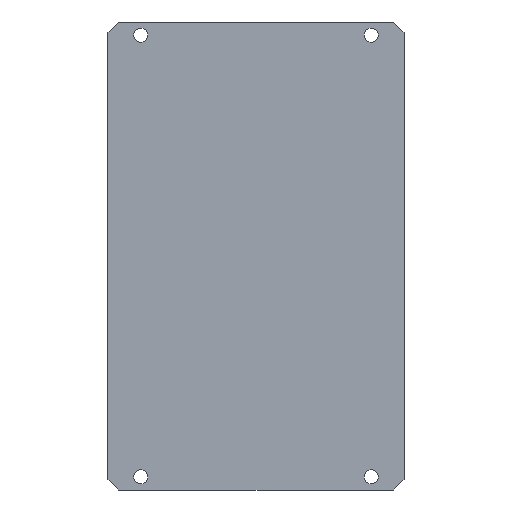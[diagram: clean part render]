
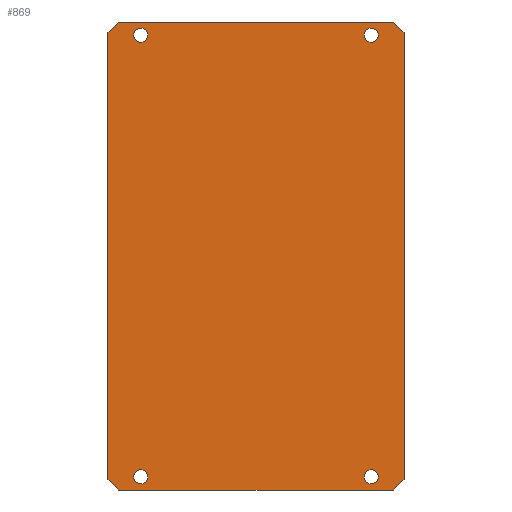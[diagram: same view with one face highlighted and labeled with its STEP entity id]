
A CAD part, front view. The second image highlights one B-rep face of the part: STEP entity #869.
In plain terms, the highlighted planar face has unit normal (0, -1, 0).
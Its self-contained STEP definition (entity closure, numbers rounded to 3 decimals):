
#31=LINE('',#1455,#83);
#33=LINE('',#1459,#85);
#40=LINE('',#1473,#92);
#41=LINE('',#1475,#93);
#42=LINE('',#1477,#94);
#43=LINE('',#1479,#95);
#44=LINE('',#1481,#96);
#45=LINE('',#1482,#97);
#83=VECTOR('',#1216,10.);
#85=VECTOR('',#1220,10.);
#92=VECTOR('',#1229,10.);
#93=VECTOR('',#1230,10.);
#94=VECTOR('',#1231,10.);
#95=VECTOR('',#1232,10.);
#96=VECTOR('',#1233,10.);
#97=VECTOR('',#1234,10.);
#182=PLANE('',#996);
#208=FACE_BOUND('',#358,.T.);
#209=FACE_BOUND('',#359,.T.);
#210=FACE_BOUND('',#360,.T.);
#211=FACE_BOUND('',#361,.T.);
#274=FACE_OUTER_BOUND('',#357,.T.);
#357=EDGE_LOOP('',(#710,#711,#712,#713,#714,#715,#716,#717));
#358=EDGE_LOOP('',(#718));
#359=EDGE_LOOP('',(#719));
#360=EDGE_LOOP('',(#720));
#361=EDGE_LOOP('',(#721));
#422=CIRCLE('',#997,1.6);
#423=CIRCLE('',#998,1.6);
#424=CIRCLE('',#999,1.6);
#425=CIRCLE('',#1000,1.6);
#476=VERTEX_POINT('',#1452);
#477=VERTEX_POINT('',#1454);
#478=VERTEX_POINT('',#1458);
#484=VERTEX_POINT('',#1472);
#485=VERTEX_POINT('',#1474);
#486=VERTEX_POINT('',#1476);
#487=VERTEX_POINT('',#1478);
#488=VERTEX_POINT('',#1480);
#489=VERTEX_POINT('',#1483);
#490=VERTEX_POINT('',#1485);
#491=VERTEX_POINT('',#1487);
#492=VERTEX_POINT('',#1489);
#560=EDGE_CURVE('',#476,#477,#31,.T.);
#562=EDGE_CURVE('',#478,#477,#33,.T.);
#569=EDGE_CURVE('',#476,#484,#40,.T.);
#570=EDGE_CURVE('',#485,#484,#41,.T.);
#571=EDGE_CURVE('',#485,#486,#42,.T.);
#572=EDGE_CURVE('',#487,#486,#43,.T.);
#573=EDGE_CURVE('',#487,#488,#44,.T.);
#574=EDGE_CURVE('',#478,#488,#45,.T.);
#575=EDGE_CURVE('',#489,#489,#422,.T.);
#576=EDGE_CURVE('',#490,#490,#423,.T.);
#577=EDGE_CURVE('',#491,#491,#424,.T.);
#578=EDGE_CURVE('',#492,#492,#425,.T.);
#710=ORIENTED_EDGE('',*,*,#560,.F.);
#711=ORIENTED_EDGE('',*,*,#569,.T.);
#712=ORIENTED_EDGE('',*,*,#570,.F.);
#713=ORIENTED_EDGE('',*,*,#571,.T.);
#714=ORIENTED_EDGE('',*,*,#572,.F.);
#715=ORIENTED_EDGE('',*,*,#573,.T.);
#716=ORIENTED_EDGE('',*,*,#574,.F.);
#717=ORIENTED_EDGE('',*,*,#562,.T.);
#718=ORIENTED_EDGE('',*,*,#575,.T.);
#719=ORIENTED_EDGE('',*,*,#576,.T.);
#720=ORIENTED_EDGE('',*,*,#577,.T.);
#721=ORIENTED_EDGE('',*,*,#578,.T.);
#869=ADVANCED_FACE('',(#274,#208,#209,#210,#211),#182,.T.);
#996=AXIS2_PLACEMENT_3D('',#1471,#1227,#1228);
#997=AXIS2_PLACEMENT_3D('',#1484,#1235,#1236);
#998=AXIS2_PLACEMENT_3D('',#1486,#1237,#1238);
#999=AXIS2_PLACEMENT_3D('',#1488,#1239,#1240);
#1000=AXIS2_PLACEMENT_3D('',#1490,#1241,#1242);
#1216=DIRECTION('',(-0.707,0.,0.707));
#1220=DIRECTION('',(0.,0.,-1.));
#1227=DIRECTION('center_axis',(0.,-1.,0.));
#1228=DIRECTION('ref_axis',(0.,0.,-1.));
#1229=DIRECTION('',(1.,0.,0.));
#1230=DIRECTION('',(-0.707,0.,-0.707));
#1231=DIRECTION('',(0.,0.,1.));
#1232=DIRECTION('',(0.707,0.,-0.707));
#1233=DIRECTION('',(-1.,0.,0.));
#1234=DIRECTION('',(0.707,0.,0.707));
#1235=DIRECTION('center_axis',(0.,1.,0.));
#1236=DIRECTION('ref_axis',(1.,0.,0.));
#1237=DIRECTION('center_axis',(0.,1.,0.));
#1238=DIRECTION('ref_axis',(1.,0.,0.));
#1239=DIRECTION('center_axis',(0.,1.,0.));
#1240=DIRECTION('ref_axis',(1.,0.,0.));
#1241=DIRECTION('center_axis',(0.,1.,0.));
#1242=DIRECTION('ref_axis',(1.,0.,0.));
#1452=CARTESIAN_POINT('',(-65.2,0.,-107.));
#1454=CARTESIAN_POINT('',(-67.7,0.,-104.5));
#1455=CARTESIAN_POINT('',(-71.363,0.,-100.838));
#1458=CARTESIAN_POINT('',(-67.7,0.,-2.5));
#1459=CARTESIAN_POINT('',(-67.7,0.,0.));
#1471=CARTESIAN_POINT('Origin',(-33.85,0.,-53.5));
#1472=CARTESIAN_POINT('',(-2.5,0.,-107.));
#1473=CARTESIAN_POINT('',(-67.7,0.,-107.));
#1474=CARTESIAN_POINT('',(0.,0.,-104.5));
#1475=CARTESIAN_POINT('',(3.662,0.,-100.838));
#1476=CARTESIAN_POINT('',(0.,0.,-2.5));
#1477=CARTESIAN_POINT('',(0.,0.,-107.));
#1478=CARTESIAN_POINT('',(-2.5,0.,0.));
#1479=CARTESIAN_POINT('',(3.663,0.,-6.163));
#1480=CARTESIAN_POINT('',(-65.2,0.,0.));
#1481=CARTESIAN_POINT('',(0.,0.,0.));
#1482=CARTESIAN_POINT('',(-71.363,0.,-6.163));
#1483=CARTESIAN_POINT('',(-61.8,0.,-104.));
#1484=CARTESIAN_POINT('Origin',(-60.2,0.,-104.));
#1485=CARTESIAN_POINT('',(-9.1,0.,-104.));
#1486=CARTESIAN_POINT('Origin',(-7.5,0.,-104.));
#1487=CARTESIAN_POINT('',(-61.8,0.,-3.));
#1488=CARTESIAN_POINT('Origin',(-60.2,0.,-3.));
#1489=CARTESIAN_POINT('',(-9.1,0.,-3.));
#1490=CARTESIAN_POINT('Origin',(-7.5,0.,-3.));
